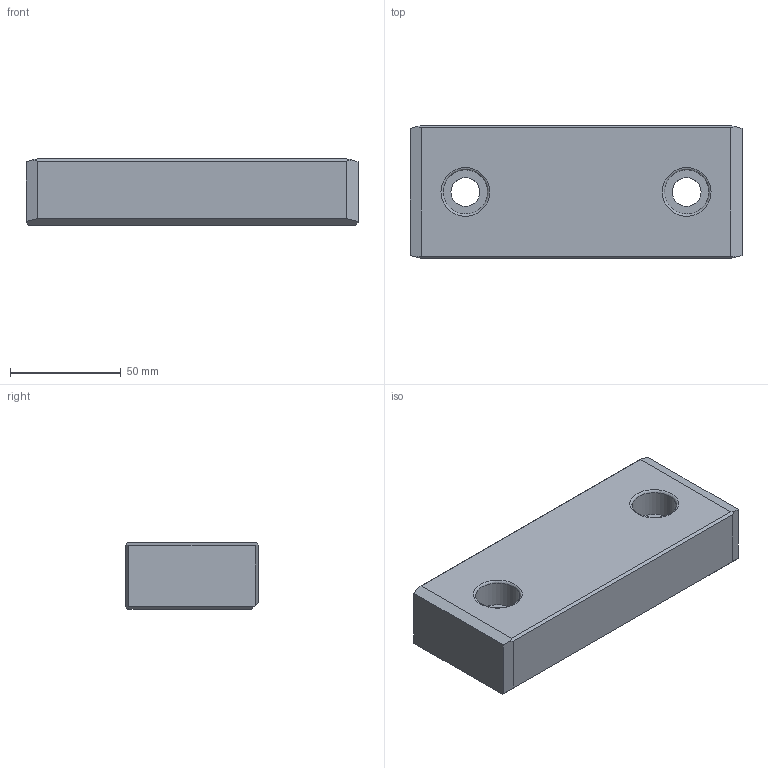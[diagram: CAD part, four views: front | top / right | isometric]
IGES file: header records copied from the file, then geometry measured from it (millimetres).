
Global section: file name: LR12.6030150.ipt; native system: Autodesk Inventor 2021; preprocessor: unknown; author: SM; date: 20211220.133548; units: millimetre
Bounding box: 150 x 60 x 30 mm (x, y, z)
Volume: 255573 mm3; surface area: 32143.9 mm2
Topology: 1 solids, 1 shells, 26 faces, 70 edges, 48 vertices
Faces by surface type: plane 20, revolution 6
